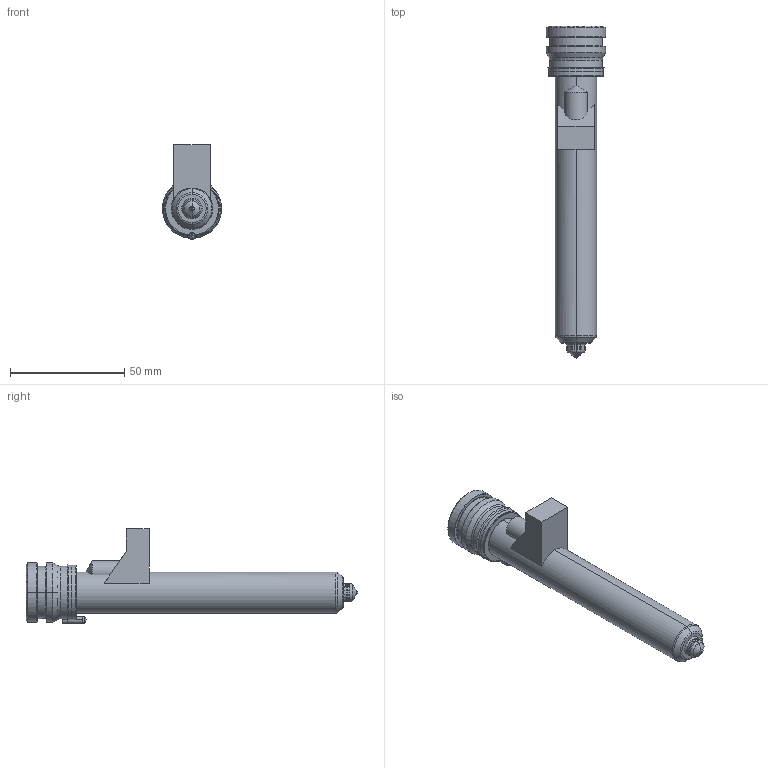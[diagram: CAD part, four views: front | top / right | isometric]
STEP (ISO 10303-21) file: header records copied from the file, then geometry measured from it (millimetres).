
FILE_DESCRIPTION((''),'2;1');
FILE_NAME('MPN-08-24-TX8-126-M','2026-02-05T13:26:23',('UPTIO'),('Thermoplay S.p.A.'),'CREO PARAMETRIC BY PTC INC, 2023494','CREO PARAMETRIC BY PTC INC, 2023494','');
FILE_SCHEMA(('CONFIG_CONTROL_DESIGN','SHAPE_APPEARANCE_LAYERS_GROUPS'));
Length unit declared in the file: millimetre
Products named in the file (1): MPN-08-24-TX8-126-M
Bounding box: 26 x 145.5 x 41.5 mm (x, y, z)
Volume: 27970.4 mm3; surface area: 36953.5 mm2
Topology: 2 solids, 3 shells, 532 faces, 1392 edges, 855 vertices
Faces by surface type: cylinder 174, plane 144, bspline 77, torus 62, cone 58, sphere 11, extrusion 6
Entity records: 28044 total; most frequent: CARTESIAN_POINT 12420, ORIENTED_EDGE 2762, DIRECTION 2491, EDGE_CURVE 1381, AXIS2_PLACEMENT_3D 974, VERTEX_POINT 855, EDGE_LOOP 562, VECTOR 543
